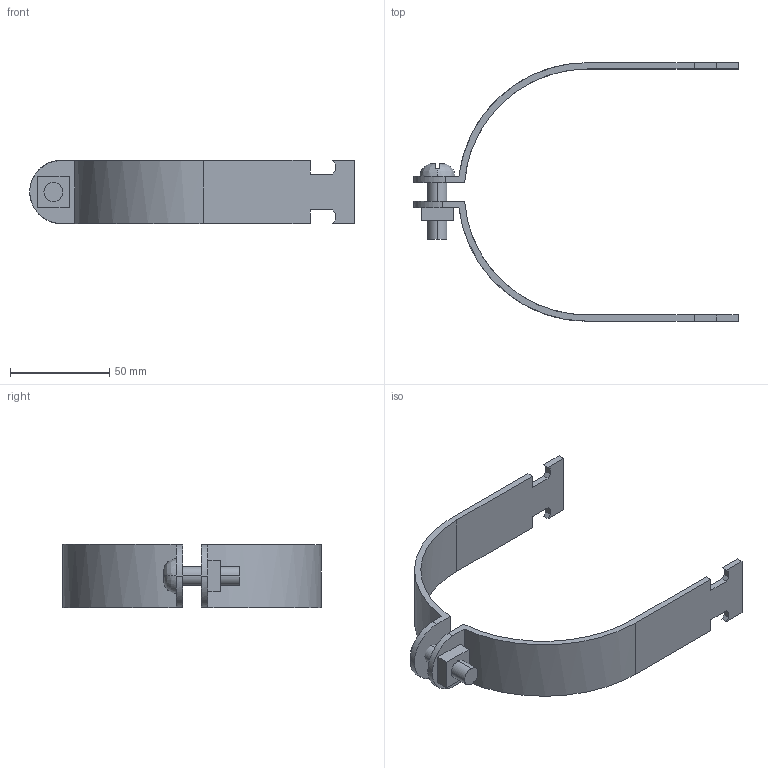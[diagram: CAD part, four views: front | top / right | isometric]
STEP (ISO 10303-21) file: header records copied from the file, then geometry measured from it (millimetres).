
FILE_DESCRIPTION(('TurboCAD Mac Pro'),'Build 980');
FILE_NAME('P2061.stp',' ',(''),(''),'ACIS Interop','IMSI','TurboCAD Mac Pro BY IMSI, INCORPORATED');
FILE_SCHEMA(('automotive_design'));
Length unit declared in the file: inch
Products named in the file (5): 1; 2; 3; 4; 5
Bounding box: 163.4 x 130.23 x 31.75 mm (x, y, z)
Volume: 41733.8 mm3; surface area: 29053.4 mm2
Topology: 4 solids, 4 shells, 71 faces, 186 edges, 124 vertices
Faces by surface type: plane 51, bspline 20
Entity records: 3436 total; most frequent: CARTESIAN_POINT 1037, ORIENTED_EDGE 372, DIRECTION 257, EDGE_CURVE 186, LINE 137, VECTOR 137, VERTEX_POINT 124, STYLED_ITEM 87
